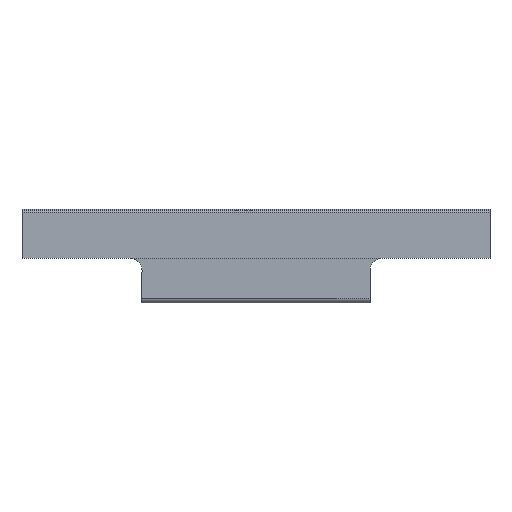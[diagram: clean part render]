
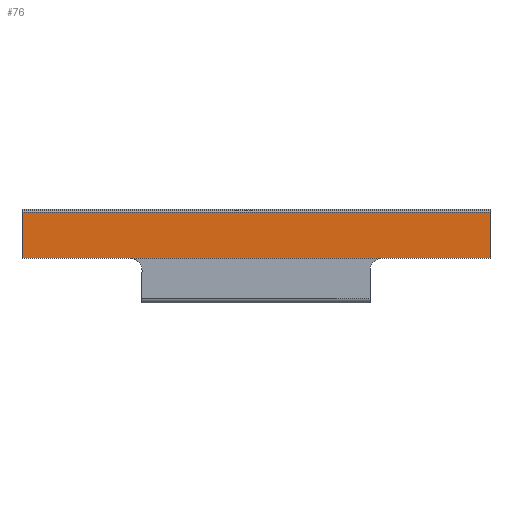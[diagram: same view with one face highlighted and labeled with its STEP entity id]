
A CAD part, top view. The second image highlights one B-rep face of the part: STEP entity #76.
In plain terms, the highlighted planar face has unit normal (0, 0, 1).
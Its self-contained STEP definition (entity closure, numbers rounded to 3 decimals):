
#76 = ADVANCED_FACE( '', ( #179 ), #180, .F. );
#179 = FACE_OUTER_BOUND( '', #306, .T. );
#180 = PLANE( '', #307 );
#306 = EDGE_LOOP( '', ( #465, #466, #467, #468, #469, #470 ) );
#307 = AXIS2_PLACEMENT_3D( '', #471, #472, #473 );
#465 = ORIENTED_EDGE( '', *, *, #831, .T. );
#466 = ORIENTED_EDGE( '', *, *, #832, .F. );
#467 = ORIENTED_EDGE( '', *, *, #818, .F. );
#468 = ORIENTED_EDGE( '', *, *, #833, .F. );
#469 = ORIENTED_EDGE( '', *, *, #834, .F. );
#470 = ORIENTED_EDGE( '', *, *, #835, .T. );
#471 = CARTESIAN_POINT( '', ( 97.5, 8.286, 3. ) );
#472 = DIRECTION( '', ( 0., 0., -1. ) );
#473 = DIRECTION( '', ( 0., 1., 0. ) );
#818 = EDGE_CURVE( '', #991, #993, #994, .T. );
#831 = EDGE_CURVE( '', #1015, #1016, #1017, .T. );
#832 = EDGE_CURVE( '', #993, #1016, #1018, .T. );
#833 = EDGE_CURVE( '', #1019, #991, #1020, .T. );
#834 = EDGE_CURVE( '', #1021, #1019, #1022, .T. );
#835 = EDGE_CURVE( '', #1021, #1015, #1023, .T. );
#991 = VERTEX_POINT( '', #1234 );
#993 = VERTEX_POINT( '', #1236 );
#994 = LINE( '', #1237, #1238 );
#1015 = VERTEX_POINT( '', #1267 );
#1016 = VERTEX_POINT( '', #1268 );
#1017 = LINE( '', #1269, #1270 );
#1018 = LINE( '', #1271, #1272 );
#1019 = VERTEX_POINT( '', #1273 );
#1020 = LINE( '', #1274, #1275 );
#1021 = VERTEX_POINT( '', #1276 );
#1022 = LINE( '', #1277, #1278 );
#1023 = LINE( '', #1279, #1280 );
#1234 = CARTESIAN_POINT( '', ( 52.5, -11., 3. ) );
#1236 = CARTESIAN_POINT( '', ( -52.5, -11., 3. ) );
#1237 = CARTESIAN_POINT( '', ( 97.5, -11., 3. ) );
#1238 = VECTOR( '', #1520, 1000. );
#1267 = CARTESIAN_POINT( '', ( -97.5, 8.286, 3. ) );
#1268 = CARTESIAN_POINT( '', ( -97.5, -11., 3. ) );
#1269 = CARTESIAN_POINT( '', ( -97.5, 8.286, 3. ) );
#1270 = VECTOR( '', #1532, 1000. );
#1271 = CARTESIAN_POINT( '', ( 97.5, -11., 3. ) );
#1272 = VECTOR( '', #1533, 1000. );
#1273 = CARTESIAN_POINT( '', ( 97.5, -11., 3. ) );
#1274 = CARTESIAN_POINT( '', ( 97.5, -11., 3. ) );
#1275 = VECTOR( '', #1534, 1000. );
#1276 = CARTESIAN_POINT( '', ( 97.5, 8.286, 3. ) );
#1277 = CARTESIAN_POINT( '', ( 97.5, 8.286, 3. ) );
#1278 = VECTOR( '', #1535, 1000. );
#1279 = CARTESIAN_POINT( '', ( 97.5, 8.286, 3. ) );
#1280 = VECTOR( '', #1536, 1000. );
#1520 = DIRECTION( '', ( -1., 0., 0. ) );
#1532 = DIRECTION( '', ( 0., -1., 0. ) );
#1533 = DIRECTION( '', ( -1., 0., 0. ) );
#1534 = DIRECTION( '', ( -1., 0., 0. ) );
#1535 = DIRECTION( '', ( 0., -1., 0. ) );
#1536 = DIRECTION( '', ( -1., 0., 0. ) );
